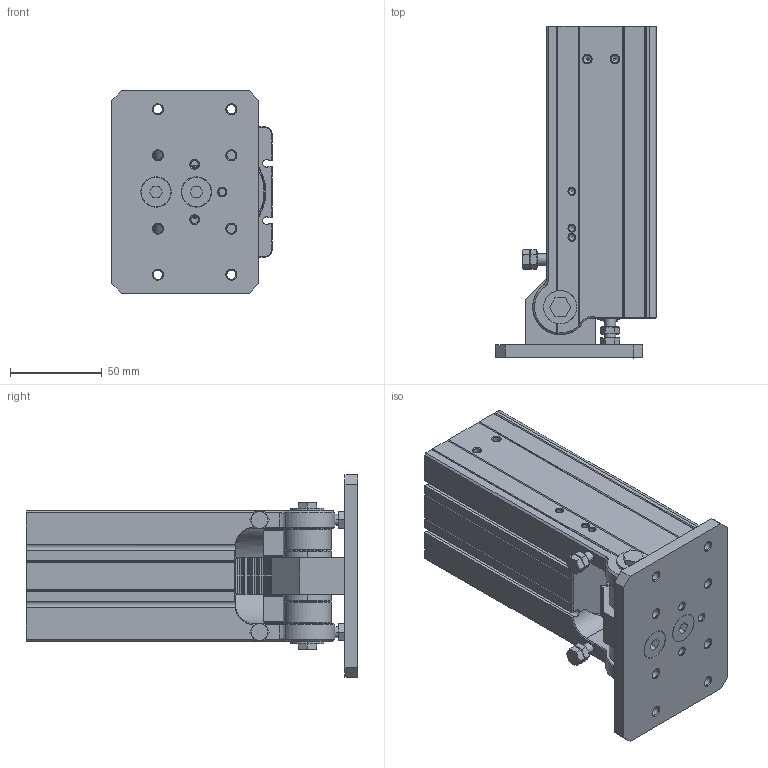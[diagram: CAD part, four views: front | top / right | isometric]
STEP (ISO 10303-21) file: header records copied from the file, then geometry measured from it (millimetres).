
FILE_DESCRIPTION(/* description */ (''),/* implementation_level */ '2;1');
FILE_NAME(/* name */ 'DHR3C-50M35ZG-ZB.stp',/* time_stamp */ '2023-05-31T09:57:24+08:00',/* author */ (''),/* organization */ (''),/* preprocessor_version */ 'ST-DEVELOPER v14',/* originating_system */ 'SIEMENS PLM Software NX 8.0',/* authorisation */ '');
FILE_SCHEMA (('AP203_CONFIGURATION_CONTROLLED_3D_DESIGN_OF_MECHANICAL_PARTS_AND_ASSEMBLIES_MIM_LF { 1 0 10303 403 2 1 2}'));
Length unit declared in the file: millimetre
Products named in the file (1): Admi0FF02E9Cg4sv
Bounding box: 87.14 x 180.5 x 110 mm (x, y, z)
Volume: 675284.7 mm3; surface area: 106728.9 mm2
Topology: 5 solids, 22 shells, 1755 faces, 4868 edges, 3174 vertices
Faces by surface type: plane 1318, cone 215, cylinder 206, bspline 10, extrusion 6
Full cylindrical faces by diameter (mm): 2.5 x5, 3 x2, 3.2 x2, 3.3 x3, 4 x2, 4.2 x5, 4.5 x2, 5 x12, 5.3 x4, 6.8 x2, 8.6 x2, 9 x2, 16.5 x2, 19 x2, 26 x2, 26.4 x2, 52 x1
Entity records: 56973 total; most frequent: CARTESIAN_POINT 12887, ORIENTED_EDGE 9382, DIRECTION 8466, EDGE_CURVE 4691, VECTOR 3756, LINE 3750, VERTEX_POINT 3141, AXIS2_PLACEMENT_3D 2355
